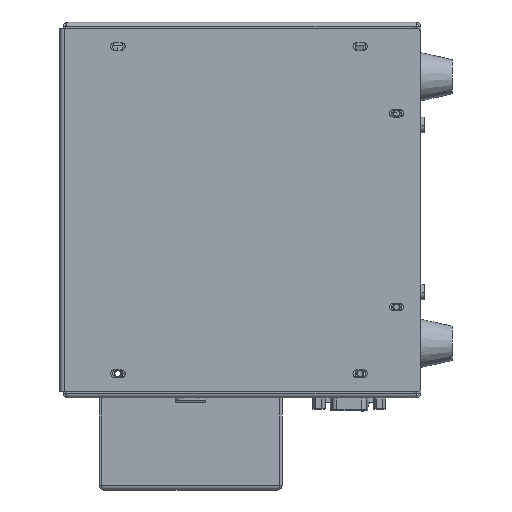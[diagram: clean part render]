
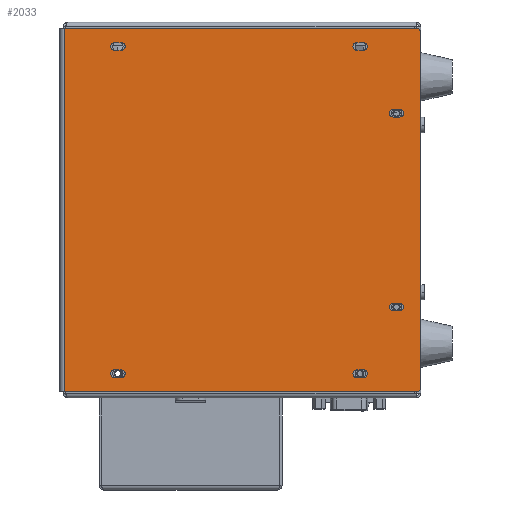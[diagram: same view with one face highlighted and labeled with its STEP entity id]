
A CAD part, left-side view. The second image highlights one B-rep face of the part: STEP entity #2033.
In plain terms, the highlighted planar face has unit normal (-1, 0, 0).
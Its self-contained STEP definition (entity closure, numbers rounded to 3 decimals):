
#25=CARTESIAN_POINT('',(-49.,-50.9,67.5));
#26=DIRECTION('',(1.,0.,0.));
#27=DIRECTION('',(0.,0.,1.));
#28=AXIS2_PLACEMENT_3D('',#25,#26,#27);
#34=CARTESIAN_POINT('',(-49.,-48.1,67.5));
#35=DIRECTION('',(1.,0.,0.));
#36=DIRECTION('',(0.,0.,-1.));
#37=AXIS2_PLACEMENT_3D('',#34,#35,#36);
#42=CARTESIAN_POINT('',(-49.,49.1,67.5));
#43=DIRECTION('',(1.,0.,0.));
#44=DIRECTION('',(0.,0.,1.));
#45=AXIS2_PLACEMENT_3D('',#42,#43,#44);
#50=CARTESIAN_POINT('',(-49.,51.9,67.5));
#51=DIRECTION('',(1.,0.,0.));
#52=DIRECTION('',(0.,0.,-1.));
#53=AXIS2_PLACEMENT_3D('',#50,#51,#52);
#58=CARTESIAN_POINT('',(-49.,-50.9,-67.5));
#59=DIRECTION('',(1.,0.,0.));
#60=DIRECTION('',(0.,0.,1.));
#61=AXIS2_PLACEMENT_3D('',#58,#59,#60);
#66=DIRECTION('',(0.,1.,0.));
#67=VECTOR('',#66,2.8);
#68=CARTESIAN_POINT('',(-49.,-50.9,-65.9));
#69=LINE('',#68,#67);
#73=CARTESIAN_POINT('',(-49.,-48.1,-67.5));
#74=DIRECTION('',(1.,0.,0.));
#75=DIRECTION('',(0.,0.,-1.));
#76=AXIS2_PLACEMENT_3D('',#73,#74,#75);
#81=DIRECTION('',(0.,-1.,0.));
#82=VECTOR('',#81,2.8);
#83=CARTESIAN_POINT('',(-49.,-48.1,-69.1));
#84=LINE('',#83,#82);
#88=CARTESIAN_POINT('',(-49.,49.1,-67.5));
#89=DIRECTION('',(1.,0.,0.));
#90=DIRECTION('',(0.,0.,1.));
#91=AXIS2_PLACEMENT_3D('',#88,#89,#90);
#96=DIRECTION('',(0.,1.,0.));
#97=VECTOR('',#96,2.8);
#98=CARTESIAN_POINT('',(-49.,49.1,-65.9));
#99=LINE('',#98,#97);
#103=CARTESIAN_POINT('',(-49.,51.9,-67.5));
#104=DIRECTION('',(1.,0.,0.));
#105=DIRECTION('',(0.,0.,-1.));
#106=AXIS2_PLACEMENT_3D('',#103,#104,#105);
#111=DIRECTION('',(0.,-1.,0.));
#112=VECTOR('',#111,2.8);
#113=CARTESIAN_POINT('',(-49.,51.9,-69.1));
#114=LINE('',#113,#112);
#118=CARTESIAN_POINT('',(-49.,-65.9,40.));
#119=DIRECTION('',(1.,0.,0.));
#120=DIRECTION('',(0.,0.,1.));
#121=AXIS2_PLACEMENT_3D('',#118,#119,#120);
#126=DIRECTION('',(0.,1.,0.));
#127=VECTOR('',#126,2.8);
#128=CARTESIAN_POINT('',(-49.,-65.9,41.6));
#129=LINE('',#128,#127);
#133=CARTESIAN_POINT('',(-49.,-63.1,40.));
#134=DIRECTION('',(1.,0.,0.));
#135=DIRECTION('',(0.,0.,-1.));
#136=AXIS2_PLACEMENT_3D('',#133,#134,#135);
#141=DIRECTION('',(0.,-1.,0.));
#142=VECTOR('',#141,2.8);
#143=CARTESIAN_POINT('',(-49.,-63.1,38.4));
#144=LINE('',#143,#142);
#148=DIRECTION('',(0.,-1.,0.));
#149=VECTOR('',#148,2.8);
#150=CARTESIAN_POINT('',(-49.,-63.1,-41.6));
#151=LINE('',#150,#149);
#155=CARTESIAN_POINT('',(-49.,-65.9,-40.));
#156=DIRECTION('',(1.,0.,0.));
#157=DIRECTION('',(0.,0.,1.));
#158=AXIS2_PLACEMENT_3D('',#155,#156,#157);
#163=DIRECTION('',(0.,1.,0.));
#164=VECTOR('',#163,2.8);
#165=CARTESIAN_POINT('',(-49.,-65.9,-38.4));
#166=LINE('',#165,#164);
#170=CARTESIAN_POINT('',(-49.,-63.1,-40.));
#171=DIRECTION('',(1.,0.,0.));
#172=DIRECTION('',(0.,0.,-1.));
#173=AXIS2_PLACEMENT_3D('',#170,#171,#172);
#178=CARTESIAN_POINT('',(-49.,-72.5,-73.));
#179=DIRECTION('',(-1.,0.,0.));
#180=DIRECTION('',(0.,0.,-1.));
#181=AXIS2_PLACEMENT_3D('',#178,#179,#180);
#186=DIRECTION('',(0.,0.,-1.));
#187=VECTOR('',#186,150.);
#188=CARTESIAN_POINT('',(-49.,72.6,75.));
#189=LINE('',#188,#187);
#193=CARTESIAN_POINT('',(-49.,-72.5,73.));
#194=DIRECTION('',(-1.,0.,0.));
#195=DIRECTION('',(0.,-1.,0.));
#196=AXIS2_PLACEMENT_3D('',#193,#194,#195);
#208=DIRECTION('',(0.,1.,0.));
#209=VECTOR('',#208,2.8);
#210=CARTESIAN_POINT('',(-49.,-50.9,65.9));
#211=LINE('',#210,#209);
#236=DIRECTION('',(0.,-1.,0.));
#237=VECTOR('',#236,2.8);
#238=CARTESIAN_POINT('',(-49.,-48.1,69.1));
#239=LINE('',#238,#237);
#495=DIRECTION('',(0.,1.,0.));
#496=VECTOR('',#495,2.8);
#497=CARTESIAN_POINT('',(-49.,49.1,65.9));
#498=LINE('',#497,#496);
#523=DIRECTION('',(0.,-1.,0.));
#524=VECTOR('',#523,2.8);
#525=CARTESIAN_POINT('',(-49.,51.9,69.1));
#526=LINE('',#525,#524);
#607=DIRECTION('',(0.,0.,1.));
#608=VECTOR('',#607,146.);
#609=CARTESIAN_POINT('',(-49.,-74.5,-73.));
#610=LINE('',#609,#608);
#635=DIRECTION('',(0.,-1.,0.));
#636=VECTOR('',#635,145.1);
#637=CARTESIAN_POINT('',(-49.,72.6,75.));
#638=LINE('',#637,#636);
#1448=DIRECTION('',(0.,-1.,0.));
#1449=VECTOR('',#1448,145.1);
#1450=CARTESIAN_POINT('',(-49.,72.6,-75.));
#1451=LINE('',#1450,#1449);
#1678=CARTESIAN_POINT('',(-49.,72.6,75.));
#1679=CARTESIAN_POINT('',(-49.,72.6,-75.));
#1680=VERTEX_POINT('',#1678);
#1681=VERTEX_POINT('',#1679);
#1698=CARTESIAN_POINT('',(-49.,-50.9,69.1));
#1699=CARTESIAN_POINT('',(-49.,-50.9,65.9));
#1700=VERTEX_POINT('',#1698);
#1701=VERTEX_POINT('',#1699);
#1702=CARTESIAN_POINT('',(-49.,-48.1,65.9));
#1703=CARTESIAN_POINT('',(-49.,-48.1,69.1));
#1704=VERTEX_POINT('',#1702);
#1705=VERTEX_POINT('',#1703);
#1706=CARTESIAN_POINT('',(-49.,49.1,69.1));
#1707=CARTESIAN_POINT('',(-49.,49.1,65.9));
#1708=VERTEX_POINT('',#1706);
#1709=VERTEX_POINT('',#1707);
#1710=CARTESIAN_POINT('',(-49.,51.9,65.9));
#1711=CARTESIAN_POINT('',(-49.,51.9,69.1));
#1712=VERTEX_POINT('',#1710);
#1713=VERTEX_POINT('',#1711);
#1762=CARTESIAN_POINT('',(-49.,-65.9,41.6));
#1763=CARTESIAN_POINT('',(-49.,-65.9,38.4));
#1764=VERTEX_POINT('',#1762);
#1765=VERTEX_POINT('',#1763);
#1766=CARTESIAN_POINT('',(-49.,-63.1,41.6));
#1767=VERTEX_POINT('',#1766);
#1768=CARTESIAN_POINT('',(-49.,-63.1,38.4));
#1769=VERTEX_POINT('',#1768);
#1770=CARTESIAN_POINT('',(-49.,-63.1,-41.6));
#1771=CARTESIAN_POINT('',(-49.,-65.9,-41.6));
#1772=VERTEX_POINT('',#1770);
#1773=VERTEX_POINT('',#1771);
#1774=CARTESIAN_POINT('',(-49.,-65.9,-38.4));
#1775=VERTEX_POINT('',#1774);
#1776=CARTESIAN_POINT('',(-49.,-63.1,-38.4));
#1777=VERTEX_POINT('',#1776);
#1842=CARTESIAN_POINT('',(-49.,-72.5,-75.));
#1843=CARTESIAN_POINT('',(-49.,-74.5,-73.));
#1844=VERTEX_POINT('',#1842);
#1845=VERTEX_POINT('',#1843);
#1850=CARTESIAN_POINT('',(-49.,-74.5,73.));
#1851=CARTESIAN_POINT('',(-49.,-72.5,75.));
#1852=VERTEX_POINT('',#1850);
#1853=VERTEX_POINT('',#1851);
#1858=CARTESIAN_POINT('',(-49.,-50.9,-65.9));
#1859=CARTESIAN_POINT('',(-49.,-50.9,-69.1));
#1860=VERTEX_POINT('',#1858);
#1861=VERTEX_POINT('',#1859);
#1862=CARTESIAN_POINT('',(-49.,-48.1,-65.9));
#1863=VERTEX_POINT('',#1862);
#1864=CARTESIAN_POINT('',(-49.,-48.1,-69.1));
#1865=VERTEX_POINT('',#1864);
#1866=CARTESIAN_POINT('',(-49.,49.1,-65.9));
#1867=CARTESIAN_POINT('',(-49.,49.1,-69.1));
#1868=VERTEX_POINT('',#1866);
#1869=VERTEX_POINT('',#1867);
#1870=CARTESIAN_POINT('',(-49.,51.9,-65.9));
#1871=VERTEX_POINT('',#1870);
#1872=CARTESIAN_POINT('',(-49.,51.9,-69.1));
#1873=VERTEX_POINT('',#1872);
#1954=CARTESIAN_POINT('',(-49.,74.5,-75.));
#1955=DIRECTION('',(-1.,0.,0.));
#1956=DIRECTION('',(0.,-1.,0.));
#1957=AXIS2_PLACEMENT_3D('',#1954,#1955,#1956);
#1958=PLANE('',#1957);
#1960=ORIENTED_EDGE('',*,*,#1959,.F.);
#1962=ORIENTED_EDGE('',*,*,#1961,.F.);
#1964=ORIENTED_EDGE('',*,*,#1963,.F.);
#1966=ORIENTED_EDGE('',*,*,#1965,.T.);
#1968=ORIENTED_EDGE('',*,*,#1967,.F.);
#1970=ORIENTED_EDGE('',*,*,#1969,.F.);
#1971=EDGE_LOOP('',(#1960,#1962,#1964,#1966,#1968,#1970));
#1972=FACE_OUTER_BOUND('',#1971,.F.);
#1974=ORIENTED_EDGE('',*,*,#1973,.F.);
#1976=ORIENTED_EDGE('',*,*,#1975,.F.);
#1978=ORIENTED_EDGE('',*,*,#1977,.F.);
#1980=ORIENTED_EDGE('',*,*,#1979,.F.);
#1981=EDGE_LOOP('',(#1974,#1976,#1978,#1980));
#1982=FACE_BOUND('',#1981,.F.);
#1984=ORIENTED_EDGE('',*,*,#1983,.F.);
#1986=ORIENTED_EDGE('',*,*,#1985,.T.);
#1988=ORIENTED_EDGE('',*,*,#1987,.F.);
#1990=ORIENTED_EDGE('',*,*,#1989,.T.);
#1991=EDGE_LOOP('',(#1984,#1986,#1988,#1990));
#1992=FACE_BOUND('',#1991,.F.);
#1994=ORIENTED_EDGE('',*,*,#1993,.F.);
#1996=ORIENTED_EDGE('',*,*,#1995,.T.);
#1998=ORIENTED_EDGE('',*,*,#1997,.F.);
#2000=ORIENTED_EDGE('',*,*,#1999,.T.);
#2001=EDGE_LOOP('',(#1994,#1996,#1998,#2000));
#2002=FACE_BOUND('',#2001,.F.);
#2004=ORIENTED_EDGE('',*,*,#2003,.F.);
#2006=ORIENTED_EDGE('',*,*,#2005,.T.);
#2008=ORIENTED_EDGE('',*,*,#2007,.F.);
#2010=ORIENTED_EDGE('',*,*,#2009,.T.);
#2011=EDGE_LOOP('',(#2004,#2006,#2008,#2010));
#2012=FACE_BOUND('',#2011,.F.);
#2014=ORIENTED_EDGE('',*,*,#2013,.T.);
#2016=ORIENTED_EDGE('',*,*,#2015,.F.);
#2018=ORIENTED_EDGE('',*,*,#2017,.T.);
#2020=ORIENTED_EDGE('',*,*,#2019,.F.);
#2021=EDGE_LOOP('',(#2014,#2016,#2018,#2020));
#2022=FACE_BOUND('',#2021,.F.);
#2024=ORIENTED_EDGE('',*,*,#2023,.F.);
#2026=ORIENTED_EDGE('',*,*,#2025,.F.);
#2028=ORIENTED_EDGE('',*,*,#2027,.F.);
#2030=ORIENTED_EDGE('',*,*,#2029,.F.);
#2031=EDGE_LOOP('',(#2024,#2026,#2028,#2030));
#2032=FACE_BOUND('',#2031,.F.);
#29=CIRCLE('',#28,1.6);
#38=CIRCLE('',#37,1.6);
#46=CIRCLE('',#45,1.6);
#54=CIRCLE('',#53,1.6);
#62=CIRCLE('',#61,1.6);
#77=CIRCLE('',#76,1.6);
#92=CIRCLE('',#91,1.6);
#107=CIRCLE('',#106,1.6);
#122=CIRCLE('',#121,1.6);
#137=CIRCLE('',#136,1.6);
#159=CIRCLE('',#158,1.6);
#174=CIRCLE('',#173,1.6);
#182=CIRCLE('',#181,2.);
#197=CIRCLE('',#196,2.);
#1959=EDGE_CURVE('',#1844,#1845,#182,.T.);
#1961=EDGE_CURVE('',#1681,#1844,#1451,.T.);
#1963=EDGE_CURVE('',#1680,#1681,#189,.T.);
#1965=EDGE_CURVE('',#1680,#1853,#638,.T.);
#1967=EDGE_CURVE('',#1852,#1853,#197,.T.);
#1969=EDGE_CURVE('',#1845,#1852,#610,.T.);
#1973=EDGE_CURVE('',#1708,#1709,#46,.T.);
#1975=EDGE_CURVE('',#1713,#1708,#526,.T.);
#1977=EDGE_CURVE('',#1712,#1713,#54,.T.);
#1979=EDGE_CURVE('',#1709,#1712,#498,.T.);
#1983=EDGE_CURVE('',#1860,#1861,#62,.T.);
#1985=EDGE_CURVE('',#1860,#1863,#69,.T.);
#1987=EDGE_CURVE('',#1865,#1863,#77,.T.);
#1989=EDGE_CURVE('',#1865,#1861,#84,.T.);
#1993=EDGE_CURVE('',#1868,#1869,#92,.T.);
#1995=EDGE_CURVE('',#1868,#1871,#99,.T.);
#1997=EDGE_CURVE('',#1873,#1871,#107,.T.);
#1999=EDGE_CURVE('',#1873,#1869,#114,.T.);
#2003=EDGE_CURVE('',#1764,#1765,#122,.T.);
#2005=EDGE_CURVE('',#1764,#1767,#129,.T.);
#2007=EDGE_CURVE('',#1769,#1767,#137,.T.);
#2009=EDGE_CURVE('',#1769,#1765,#144,.T.);
#2013=EDGE_CURVE('',#1772,#1773,#151,.T.);
#2015=EDGE_CURVE('',#1775,#1773,#159,.T.);
#2017=EDGE_CURVE('',#1775,#1777,#166,.T.);
#2019=EDGE_CURVE('',#1772,#1777,#174,.T.);
#2023=EDGE_CURVE('',#1700,#1701,#29,.T.);
#2025=EDGE_CURVE('',#1705,#1700,#239,.T.);
#2027=EDGE_CURVE('',#1704,#1705,#38,.T.);
#2029=EDGE_CURVE('',#1701,#1704,#211,.T.);
#2033=ADVANCED_FACE('',(#1972,#1982,#1992,#2002,#2012,#2022,#2032),#1958,.T.);
